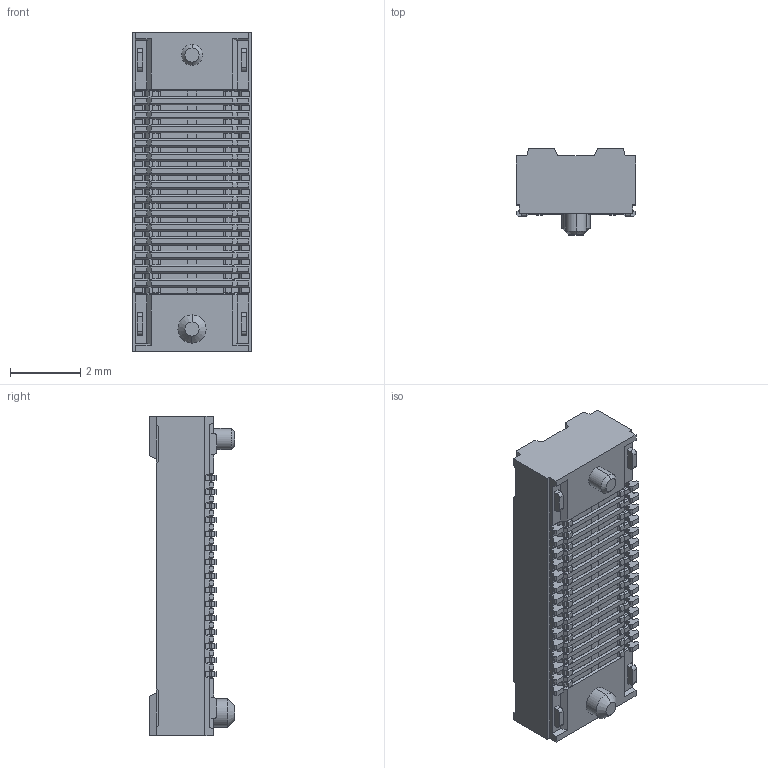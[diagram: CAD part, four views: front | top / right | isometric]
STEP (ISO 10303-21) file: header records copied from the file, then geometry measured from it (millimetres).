
FILE_DESCRIPTION((''),'2;1');
FILE_NAME('S-50009-040XX-001','2011-09-23T',('12117822'),(''),'PRO/ENGINEER BY PARAMETRIC TECHNOLOGY CORPORATION, 2010370','PRO/ENGINEER BY PARAMETRIC TECHNOLOGY CORPORATION, 2010370','');
FILE_SCHEMA(('CONFIG_CONTROL_DESIGN'));
Products named in the file (1): S-50009-040XX-001
Bounding box: 3.4 x 2.44 x 9.1 mm (x, y, z)
Volume: 40 mm3; surface area: 159.5 mm2
Topology: 1 solids, 1 shells, 2287 faces, 6262 edges, 4102 vertices
Faces by surface type: plane 1971, cylinder 300, cone 8, torus 4, bspline 4
Entity records: 71592 total; most frequent: CARTESIAN_POINT 13643, ORIENTED_EDGE 12516, DIRECTION 11028, EDGE_CURVE 6258, VECTOR 5642, LINE 5642, VERTEX_POINT 4102, AXIS2_PLACEMENT_3D 2693
